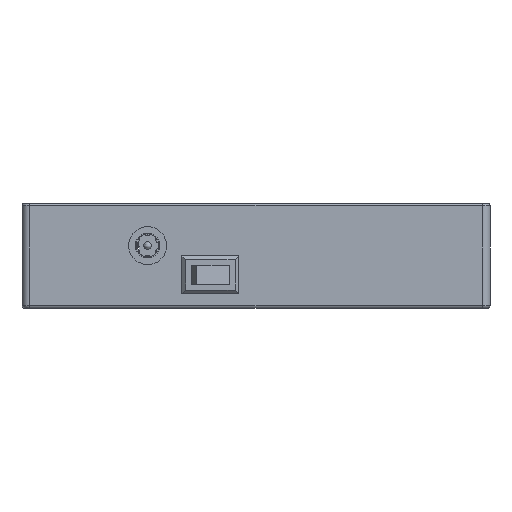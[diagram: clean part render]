
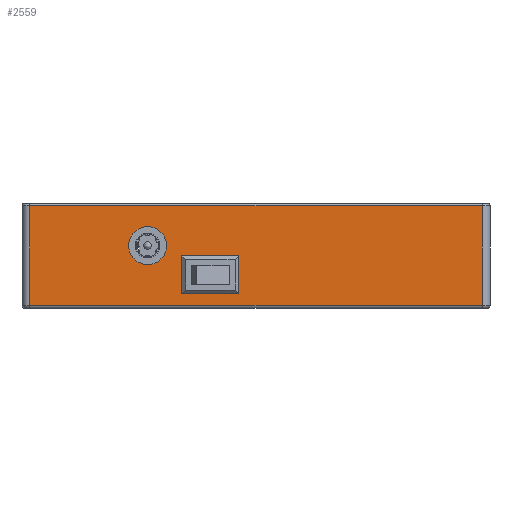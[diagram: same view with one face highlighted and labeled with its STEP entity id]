
A CAD part, front view. The second image highlights one B-rep face of the part: STEP entity #2559.
In plain terms, the highlighted planar face has unit normal (0, -1, 0).
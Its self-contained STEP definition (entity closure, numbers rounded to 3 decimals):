
#294 = PLANE ( 'NONE',  #12624 ) ;
#1073 = VERTEX_POINT ( 'NONE', #4295 ) ;
#1197 = CIRCLE ( 'NONE', #10515, 5. ) ;
#1207 = EDGE_LOOP ( 'NONE', ( #5509, #7359, #9076, #2304 ) ) ;
#1932 = CARTESIAN_POINT ( 'NONE',  ( -13.133, -40.339, 122.05 ) ) ;
#1949 = VECTOR ( 'NONE', #13555, 1000. ) ;
#2172 = ORIENTED_EDGE ( 'NONE', *, *, #9595, .F. ) ;
#2304 = ORIENTED_EDGE ( 'NONE', *, *, #2938, .T. ) ;
#2389 = EDGE_CURVE ( 'NONE', #16505, #11545, #8919, .T. ) ;
#2559 = ADVANCED_FACE ( 'NONE', ( #6800, #7574, #19861 ), #294, .F. ) ;
#2577 = VECTOR ( 'NONE', #15872, 1000. ) ;
#2938 = EDGE_CURVE ( 'NONE', #9744, #21909, #19034, .T. ) ;
#3891 = VERTEX_POINT ( 'NONE', #21121 ) ;
#3897 = EDGE_CURVE ( 'NONE', #15032, #18864, #1197, .T. ) ;
#3941 = EDGE_CURVE ( 'NONE', #21909, #1073, #15803, .T. ) ;
#4057 = DIRECTION ( 'NONE',  ( -1., 0., 0. ) ) ;
#4195 = VECTOR ( 'NONE', #15702, 1000. ) ;
#4295 = CARTESIAN_POINT ( 'NONE',  ( 51.367, -40.339, 136.25 ) ) ;
#4638 = DIRECTION ( 'NONE',  ( 0., 0., 1. ) ) ;
#5395 = LINE ( 'NONE', #15350, #1949 ) ;
#5509 = ORIENTED_EDGE ( 'NONE', *, *, #3941, .T. ) ;
#5526 = DIRECTION ( 'NONE',  ( 0., 0., -1. ) ) ;
#6022 = DIRECTION ( 'NONE',  ( 0., 0., -1. ) ) ;
#6677 = EDGE_CURVE ( 'NONE', #18864, #15032, #21343, .T. ) ;
#6717 = DIRECTION ( 'NONE',  ( 1., 0., 0. ) ) ;
#6800 = FACE_BOUND ( 'NONE', #16173, .T. ) ;
#7041 = VECTOR ( 'NONE', #6717, 1000. ) ;
#7053 = LINE ( 'NONE', #9073, #2577 ) ;
#7093 = CARTESIAN_POINT ( 'NONE',  ( -36.633, -40.339, 130.75 ) ) ;
#7359 = ORIENTED_EDGE ( 'NONE', *, *, #14493, .T. ) ;
#7446 = CARTESIAN_POINT ( 'NONE',  ( -13.133, -40.339, 122.05 ) ) ;
#7499 = CARTESIAN_POINT ( 'NONE',  ( -26.633, -40.339, 122.05 ) ) ;
#7568 = LINE ( 'NONE', #18923, #20644 ) ;
#7574 = FACE_BOUND ( 'NONE', #20352, .T. ) ;
#7787 = DIRECTION ( 'NONE',  ( 0., -1., 0. ) ) ;
#8149 = CARTESIAN_POINT ( 'NONE',  ( 51.367, -40.339, 110. ) ) ;
#8194 = ORIENTED_EDGE ( 'NONE', *, *, #3897, .F. ) ;
#8585 = AXIS2_PLACEMENT_3D ( 'NONE', #14495, #12727, #6022 ) ;
#8674 = LINE ( 'NONE', #12328, #4195 ) ;
#8919 = LINE ( 'NONE', #7446, #15870 ) ;
#9073 = CARTESIAN_POINT ( 'NONE',  ( -26.633, -40.339, 113.45 ) ) ;
#9076 = ORIENTED_EDGE ( 'NONE', *, *, #9905, .T. ) ;
#9118 = VECTOR ( 'NONE', #4638, 1000. ) ;
#9595 = EDGE_CURVE ( 'NONE', #11545, #14981, #14257, .T. ) ;
#9744 = VERTEX_POINT ( 'NONE', #17882 ) ;
#9905 = EDGE_CURVE ( 'NONE', #10002, #9744, #8674, .T. ) ;
#10002 = VERTEX_POINT ( 'NONE', #21124 ) ;
#10434 = DIRECTION ( 'NONE',  ( 0., 0., 1. ) ) ;
#10515 = AXIS2_PLACEMENT_3D ( 'NONE', #13503, #7787, #21636 ) ;
#10607 = EDGE_CURVE ( 'NONE', #3891, #16505, #7053, .T. ) ;
#11545 = VERTEX_POINT ( 'NONE', #1932 ) ;
#11865 = DIRECTION ( 'NONE',  ( 0., 1., 0. ) ) ;
#12060 = ORIENTED_EDGE ( 'NONE', *, *, #6677, .F. ) ;
#12328 = CARTESIAN_POINT ( 'NONE',  ( -67.633, -40.339, 136.75 ) ) ;
#12624 = AXIS2_PLACEMENT_3D ( 'NONE', #15284, #11865, #10434 ) ;
#12727 = DIRECTION ( 'NONE',  ( 0., -1., 0. ) ) ;
#13503 = CARTESIAN_POINT ( 'NONE',  ( -36.633, -40.339, 125.75 ) ) ;
#13555 = DIRECTION ( 'NONE',  ( -1., 0., 0. ) ) ;
#13694 = ORIENTED_EDGE ( 'NONE', *, *, #2389, .F. ) ;
#14257 = LINE ( 'NONE', #7499, #18821 ) ;
#14493 = EDGE_CURVE ( 'NONE', #1073, #10002, #5395, .T. ) ;
#14495 = CARTESIAN_POINT ( 'NONE',  ( -36.633, -40.339, 125.75 ) ) ;
#14981 = VERTEX_POINT ( 'NONE', #15827 ) ;
#15032 = VERTEX_POINT ( 'NONE', #19232 ) ;
#15284 = CARTESIAN_POINT ( 'NONE',  ( -69.633, -40.339, 136.75 ) ) ;
#15350 = CARTESIAN_POINT ( 'NONE',  ( -67.633, -40.339, 136.25 ) ) ;
#15483 = CARTESIAN_POINT ( 'NONE',  ( -13.133, -40.339, 113.45 ) ) ;
#15702 = DIRECTION ( 'NONE',  ( 0., 0., -1. ) ) ;
#15803 = LINE ( 'NONE', #21425, #9118 ) ;
#15827 = CARTESIAN_POINT ( 'NONE',  ( -26.633, -40.339, 122.05 ) ) ;
#15870 = VECTOR ( 'NONE', #19504, 1000. ) ;
#15872 = DIRECTION ( 'NONE',  ( 1., 0., 0. ) ) ;
#16173 = EDGE_LOOP ( 'NONE', ( #2172, #13694, #21892, #18756 ) ) ;
#16505 = VERTEX_POINT ( 'NONE', #15483 ) ;
#16942 = CARTESIAN_POINT ( 'NONE',  ( -69.633, -40.339, 110. ) ) ;
#17882 = CARTESIAN_POINT ( 'NONE',  ( -67.633, -40.339, 110. ) ) ;
#18756 = ORIENTED_EDGE ( 'NONE', *, *, #21177, .F. ) ;
#18821 = VECTOR ( 'NONE', #4057, 1000. ) ;
#18864 = VERTEX_POINT ( 'NONE', #7093 ) ;
#18923 = CARTESIAN_POINT ( 'NONE',  ( -26.633, -40.339, 122.05 ) ) ;
#19034 = LINE ( 'NONE', #16942, #7041 ) ;
#19232 = CARTESIAN_POINT ( 'NONE',  ( -36.633, -40.339, 120.75 ) ) ;
#19504 = DIRECTION ( 'NONE',  ( 0., 0., 1. ) ) ;
#19861 = FACE_OUTER_BOUND ( 'NONE', #1207, .T. ) ;
#20352 = EDGE_LOOP ( 'NONE', ( #8194, #12060 ) ) ;
#20644 = VECTOR ( 'NONE', #5526, 1000. ) ;
#21121 = CARTESIAN_POINT ( 'NONE',  ( -26.633, -40.339, 113.45 ) ) ;
#21124 = CARTESIAN_POINT ( 'NONE',  ( -67.633, -40.339, 136.25 ) ) ;
#21177 = EDGE_CURVE ( 'NONE', #14981, #3891, #7568, .T. ) ;
#21343 = CIRCLE ( 'NONE', #8585, 5. ) ;
#21425 = CARTESIAN_POINT ( 'NONE',  ( 51.367, -40.339, 136.75 ) ) ;
#21636 = DIRECTION ( 'NONE',  ( 0., 0., -1. ) ) ;
#21892 = ORIENTED_EDGE ( 'NONE', *, *, #10607, .F. ) ;
#21909 = VERTEX_POINT ( 'NONE', #8149 ) ;
